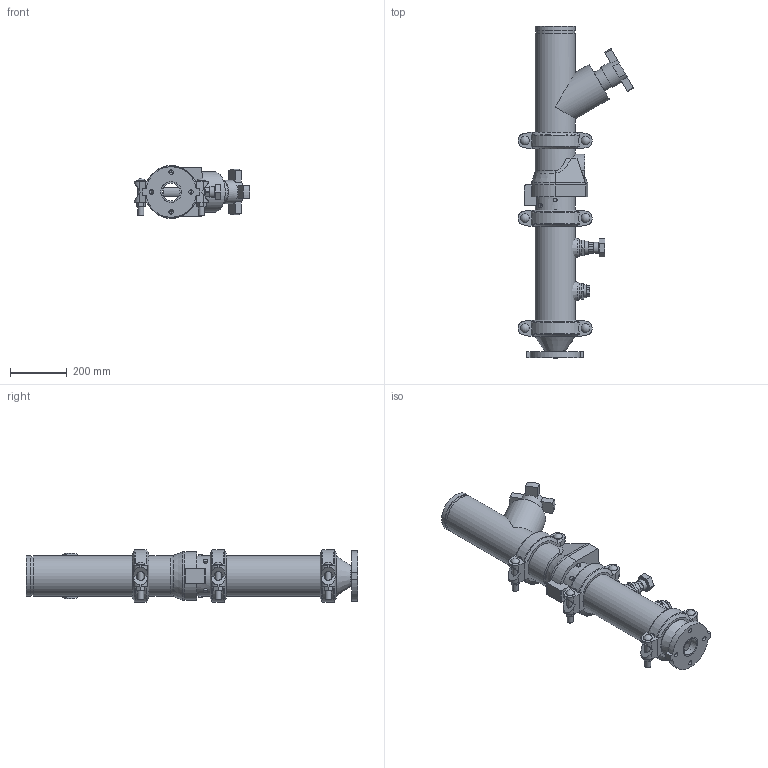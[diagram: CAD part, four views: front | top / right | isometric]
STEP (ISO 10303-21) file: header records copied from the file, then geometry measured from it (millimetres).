
FILE_DESCRIPTION(/* description */ ('VIC DVI PUMP DROP VERT S/383 (OGSxFLG) (S/924-1.25)','CAx-IF Rec.Pracs.---Representation and Presentation of Product Manufacturing Information (PMI)---4.0---2014-10-13'),/* implementation_level */ '2;1');
FILE_NAME(/* name */ 'C:\Users\Public\Documents\Victaulic.Temp\A849\Victaulic_IPS_Vertical DVI_CL 150_Series 383 (OGSxFLG)_924 (1.25)_05.0x02.5 (125x65).stp',/* time_stamp */ '2022-07-25T11:39:28+02:00',/* author */ ('Vjadhav'),/* organization */ ('Victaulic'),/* preprocessor_version */ 'ST-DEVELOPER v18',/* originating_system */ 'Autodesk Inventor 2020',/* authorisation */ '');
FILE_SCHEMA (('AP242_MANAGED_MODEL_BASED_3D_ENGINEERING_MIM_LF { 1 0 10303 442 1 1 4 }'));
Length unit declared in the file: inch
Products named in the file (9): 383_924 (1.25)-05.0x02.5; 741-02.5; 050-05.0x02.5; Pipe-05.0; 177N-05.0; 789-05.0; 779-05.0; 924-04.0x01.25; 923-04.0x0.75
Assembly tree (10 placements, depth 2):
  383_924 (1.25)-05.0x02.5
    741-02.5
    050-05.0x02.5
    177N-05.0  x3
    Pipe-05.0
    789-05.0
    779-05.0
    924-04.0x01.25
    923-04.0x0.75
Bounding box: 406.02 x 1168.4 x 185.67 mm (x, y, z)
Volume: 10367470 mm3; surface area: 1667413.5 mm2
Topology: 10 solids, 11 shells, 544 faces, 1457 edges, 975 vertices
Faces by surface type: plane 321, cylinder 178, cone 19, torus 18, sphere 6, bspline 2
Full cylindrical faces by diameter (mm): 13.716 x4, 15.875 x4, 21.209 x6, 21.336 x1, 26.67 x2, 30.48 x6, 38.608 x1, 42.164 x1, 45.974 x4, 48.514 x1, 55.626 x2, 62.713 x1, 69.088 x1, 73.025 x3, 75.26 x1, 82.55 x1, 128.194 x4, 128.6 x3, 137.033 x7, 141.3 x19
Entity records: 12412 total; most frequent: CARTESIAN_POINT 2512, DIRECTION 2035, ORIENTED_EDGE 1862, EDGE_CURVE 931, AXIS2_PLACEMENT_3D 772, VERTEX_POINT 631, LINE 491, VECTOR 491
